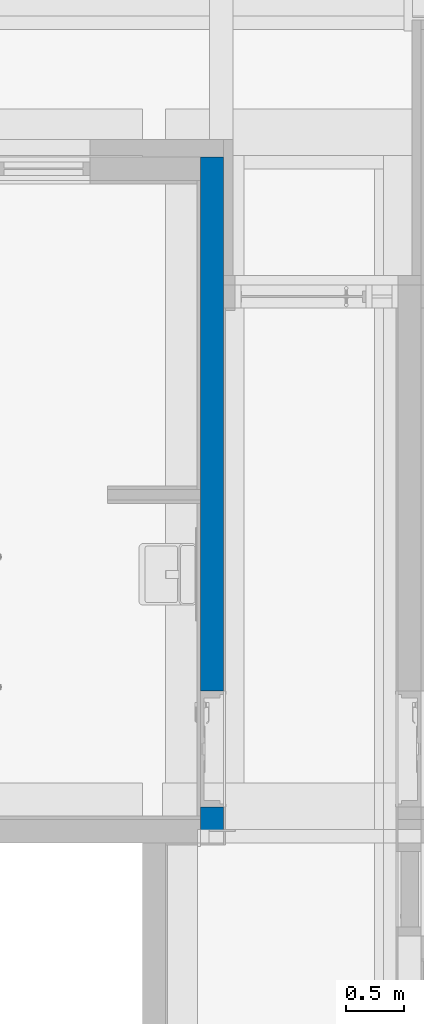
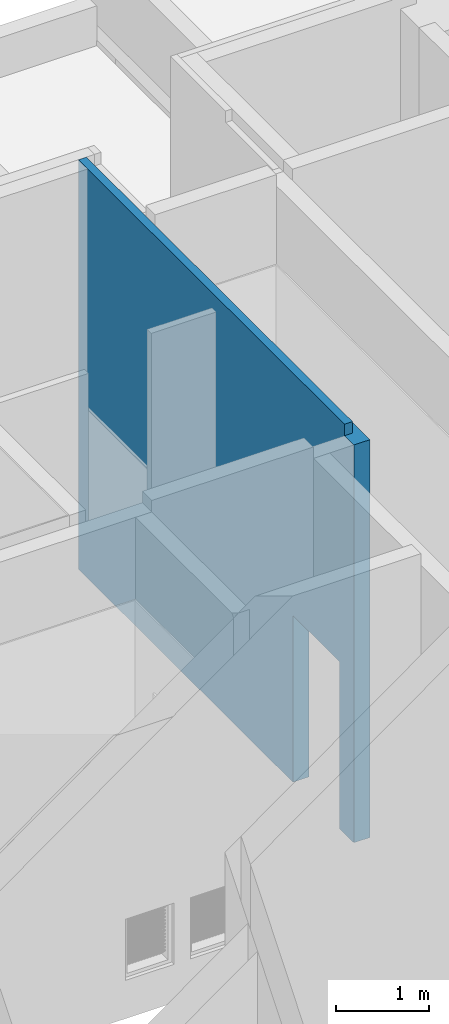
# One storey, part 65 of 100: 1 wall, 1 opening.
"""IFC2X3 building model written with IfcOpenShell, lengths in millimetres."""

from ifc_helpers import new_model, entity, si_unit, converted_unit, derived_unit, direction, frame, frame_2d, origin, place, context, subcontext, project, spatial, rectangle, extrude, faceted_brep, material, layer, layer_set, type_object, element, save


model = new_model("IFC2X3")

# Units and contexts
model_context = context("Model", 3, precision=0.01, world=origin(), true_north=direction((6.123031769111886e-17, 1.0)))
body_context = subcontext(model_context, "Body", "Model", "MODEL_VIEW")
ifc_project = project(units=[si_unit("LENGTHUNIT", "METRE", prefix="MILLI"), si_unit("AREAUNIT", "SQUARE_METRE"), si_unit("VOLUMEUNIT", "CUBIC_METRE"), converted_unit("PLANEANGLEUNIT", "DEGREE", entity("IfcRatioMeasure", 0.017453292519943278), si_unit("PLANEANGLEUNIT", "RADIAN"), dimensions=[0, 0, 0, 0, 0, 0, 0]), si_unit("MASSUNIT", "GRAM", prefix="KILO"), derived_unit("MASSDENSITYUNIT", [(si_unit("MASSUNIT", "GRAM", prefix="KILO"), 1), (si_unit("LENGTHUNIT", "METRE"), -3)]), derived_unit("MOMENTOFINERTIAUNIT", [(si_unit("LENGTHUNIT", "METRE"), 4)]), si_unit("TIMEUNIT", "SECOND"), si_unit("FREQUENCYUNIT", "HERTZ"), si_unit("THERMODYNAMICTEMPERATUREUNIT", "DEGREE_CELSIUS"), derived_unit("THERMALTRANSMITTANCEUNIT", [(si_unit("MASSUNIT", "GRAM", prefix="KILO"), 1), (si_unit("THERMODYNAMICTEMPERATUREUNIT", "KELVIN"), -1), (si_unit("TIMEUNIT", "SECOND"), -3)]), derived_unit("VOLUMETRICFLOWRATEUNIT", [(si_unit("LENGTHUNIT", "METRE"), 3), (si_unit("TIMEUNIT", "SECOND"), -1)]), derived_unit("MASSFLOWRATEUNIT", [(si_unit("MASSUNIT", "GRAM", prefix="KILO"), 1), (si_unit("TIMEUNIT", "SECOND"), -1)]), derived_unit("ROTATIONALFREQUENCYUNIT", [(si_unit("TIMEUNIT", "SECOND"), -1)]), si_unit("ELECTRICCURRENTUNIT", "AMPERE"), si_unit("ELECTRICVOLTAGEUNIT", "VOLT"), si_unit("POWERUNIT", "WATT"), si_unit("FORCEUNIT", "NEWTON", prefix="KILO"), si_unit("ILLUMINANCEUNIT", "LUX"), si_unit("LUMINOUSFLUXUNIT", "LUMEN"), si_unit("LUMINOUSINTENSITYUNIT", "CANDELA"), derived_unit("USERDEFINED", [(si_unit("MASSUNIT", "GRAM", prefix="KILO"), -1), (si_unit("LENGTHUNIT", "METRE"), -2), (si_unit("TIMEUNIT", "SECOND"), 3), (si_unit("LUMINOUSFLUXUNIT", "LUMEN"), 1)]), derived_unit("SOUNDPOWERUNIT", [(si_unit("MASSUNIT", "GRAM", prefix="KILO"), 1), (si_unit("LENGTHUNIT", "METRE"), 2), (si_unit("TIMEUNIT", "SECOND"), -3)]), derived_unit("SOUNDPRESSUREUNIT", [(si_unit("MASSUNIT", "GRAM", prefix="KILO"), 1), (si_unit("LENGTHUNIT", "METRE"), -1), (si_unit("TIMEUNIT", "SECOND"), -2)]), derived_unit("LINEARVELOCITYUNIT", [(si_unit("LENGTHUNIT", "METRE"), 1), (si_unit("TIMEUNIT", "SECOND"), -1)]), si_unit("PRESSUREUNIT", "PASCAL"), derived_unit("USERDEFINED", [(si_unit("LENGTHUNIT", "METRE"), -2), (si_unit("MASSUNIT", "GRAM", prefix="KILO"), 1), (si_unit("TIMEUNIT", "SECOND"), -2)]), derived_unit("LINEARFORCEUNIT", [(si_unit("MASSUNIT", "GRAM", prefix="KILO"), 1), (si_unit("LENGTHUNIT", "METRE"), 1), (si_unit("TIMEUNIT", "SECOND"), -2), (si_unit("LENGTHUNIT", "METRE"), -1)]), derived_unit("PLANARFORCEUNIT", [(si_unit("MASSUNIT", "GRAM", prefix="KILO"), 1), (si_unit("LENGTHUNIT", "METRE"), 1), (si_unit("TIMEUNIT", "SECOND"), -2), (si_unit("LENGTHUNIT", "METRE"), -2)])], contexts=[model_context])

# Site, building, storey
site_placement = place(None, frame((-14167.972527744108, -657.2125860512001, 0.0)))
site = spatial("IfcSite", under=ifc_project, at=site_placement, Name="Default", CompositionType="ELEMENT")
building_placement = place(site_placement, origin())
building = spatial("IfcBuilding", under=site, at=building_placement, Name="Sample Building", CompositionType="ELEMENT")
storey_placement = place(building_placement, origin())
storey = spatial("IfcBuildingStorey", under=building, at=storey_placement, Name="지상 1층", CompositionType="ELEMENT", Elevation=0.0)

# Wall, opening
ifc_material = material(Name="KBIMS-콘크리트")
ifc_layer = layer(ifc_material, 200.0)
ifc_layer_set = layer_set([ifc_layer], Name="기본 벽:WA111-철근콘크리트구조 벽 200mm_CW1")
wall_type = type_object("IfcWallType", Name="기본 벽:WA111-철근콘크리트구조 벽 200mm_CW1", PredefinedType="STANDARD", material=ifc_layer_set)
wall_placement = place(storey_placement, frame((36367.963798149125, 28157.212307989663, -550.0), z_axis=(0.0, 0.0, 1.0), x_axis=(0.0, -1.0, 0.0)))
wall = element("IfcWall", 1, at=wall_placement, inside=storey, type_object=wall_type, Name="기본 벽:WA111-철근콘크리트구조 벽 200mm_CW1", ObjectType="기본 벽:WA111-철근콘크리트구조 벽 200mm_CW1", context=body_context, shape_type="Brep", body=[
    faceted_brep([(5900.0, -100.0, 0.0), (5900.0, -100.0, 5200.0), (5700.0, -100.0, 5200.0), (5700.0, -100.0, 5300.0), (5700.0, -100.0, 5350.0), (5500.000194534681, -100.0, 5350.0), (499.99988175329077, -100.0, 5350.0), (200.0, -100.0, 5350.0), (0.0, -100.0, 5350.0), (0.0, -100.0, 0.0), (200.0, -100.0, 0.0), (4593.539489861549, -100.0, 0.0), (4593.539489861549, -100.0, 80.0), (4593.539489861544, -100.0, 2180.0), (5593.539489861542, -100.0, 2180.0), (5593.539489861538, -100.0, 80.0), (5593.539489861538, -100.0, 0.0), (5593.539489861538, 100.0, 0.0), (5593.539489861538, 100.0, 80.0), (5593.539489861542, 100.0, 2180.0), (4593.539489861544, 100.0, 2180.0), (4593.539489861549, 100.0, 80.0), (4593.539489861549, 100.0, 0.0), (1300.000012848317, 100.0, 0.0), (1100.000012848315, 100.0, 0.0), (0.0, 100.0, 0.0), (0.0, 100.0, 5200.0), (499.99988175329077, 100.0, 5200.0), (1100.000012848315, 100.0, 5200.0), (1300.000012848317, 100.0, 5200.0), (5500.000194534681, 100.0, 5200.0), (5900.0, 100.0, 5200.0), (5900.0, 100.0, 80.0), (5900.0, 100.0, 0.0), (5700.0, 0.008692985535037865, 5350.0), (0.0, 0.00869298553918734, 5350.0), (0.00019080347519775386, 0.00869298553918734, 5200.0), (5700.0, 0.008692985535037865, 5200.0), (0.0, 0.00869298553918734, 5200.0)], [[[0, 1, 2, 3, 4, 5, 6, 7, 8, 9, 10, 11, 12, 13, 14, 15, 16]], [[17, 18, 19, 20, 21, 22, 23, 24, 25, 26, 27, 28, 29, 30, 31, 32, 33]], [[9, 25, 24, 23, 22, 11, 10]], [[8, 7, 6, 5, 4, 34, 35]], [[0, 33, 32, 31, 1]], [[2, 1, 31, 30, 29, 28, 27, 26, 36, 37]], [[37, 34, 4, 3, 2]], [[37, 38, 35, 34]], [[17, 16, 15, 14, 19, 18]], [[20, 19, 14, 13]], [[20, 13, 12, 11, 22, 21]], [[9, 8, 35, 38, 26, 25]], [[33, 0, 16, 17]]]),
])
opening_placement = place(wall_placement, frame((5593.539489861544, 100.0, 80.0)))
element("IfcOpeningElement", 2, at=opening_placement, cuts=wall, Name="DR111-외여닫이문(철재,일반)_유리포함(원형):DR111-외여닫이문(철재, 일반)_유리포함 (원형)_2100x1000:1", ObjectType="Opening", context=body_context, shape_type="SweptSolid", body=[
    extrude(rectangle(XDim=2099.999999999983, YDim=999.9999999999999, at=frame_2d((1049.9999999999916, 500.00000000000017), x_axis=(1.0, 0.0))), frame((0.0, 0.0, 0.0), z_axis=(0.0, -1.0, 0.0), x_axis=(0.0, 0.0, 1.0)), (0.0, 0.0, 1.0), 200.0),
])

save(model, "model.ifc")
